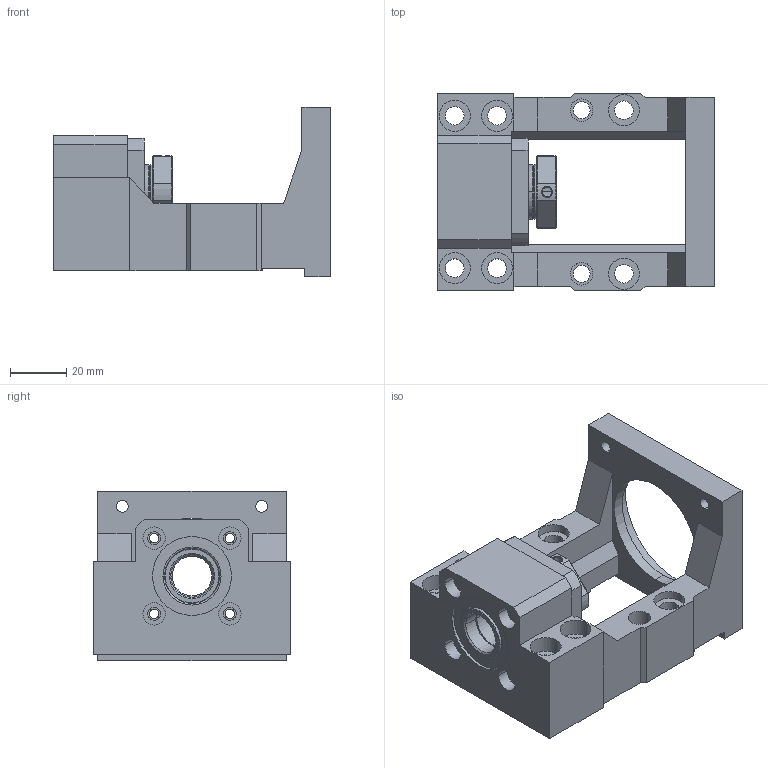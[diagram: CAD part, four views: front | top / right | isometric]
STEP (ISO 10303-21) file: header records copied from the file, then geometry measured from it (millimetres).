
FILE_DESCRIPTION((''),'2;1');
FILE_NAME('MBCB-15D_ASM_ASM','2020-05-07T',('Administrator'),(''),'PRO/ENGINEER BY PARAMETRIC TECHNOLOGY CORPORATION, 2010280','PRO/ENGINEER BY PARAMETRIC TECHNOLOGY CORPORATION, 2010280','');
FILE_SCHEMA(('CONFIG_CONTROL_DESIGN'));
Length unit declared in the file: millimetre
Products named in the file (8): MANIFOLD_SOLID_BREP_488; MBCB15-D-02_ASM_ASM; _MBCB-15D; MBCB15-D-03; PRT0001; TU_A__15_ASM_ASM; BK15-02_2; MBCB-15D_ASM_ASM
Assembly tree (7 placements, depth 3):
  MBCB-15D_ASM_ASM
    MBCB15-D-02_ASM_ASM
      MANIFOLD_SOLID_BREP_488
    _MBCB-15D
    MBCB15-D-03
    TU_A__15_ASM_ASM
      PRT0001
    BK15-02_2
Bounding box: 98 x 70 x 60 mm (x, y, z)
Volume: 133191 mm3; surface area: 45251 mm2
Topology: 5 solids, 5 shells, 235 faces, 610 edges, 399 vertices
Faces by surface type: cylinder 106, plane 87, cone 34, torus 4, bspline 4
Entity records: 7877 total; most frequent: CARTESIAN_POINT 1651, DIRECTION 1341, ORIENTED_EDGE 1212, EDGE_CURVE 606, AXIS2_PLACEMENT_3D 521, VERTEX_POINT 399, EDGE_LOOP 307, VECTOR 299
